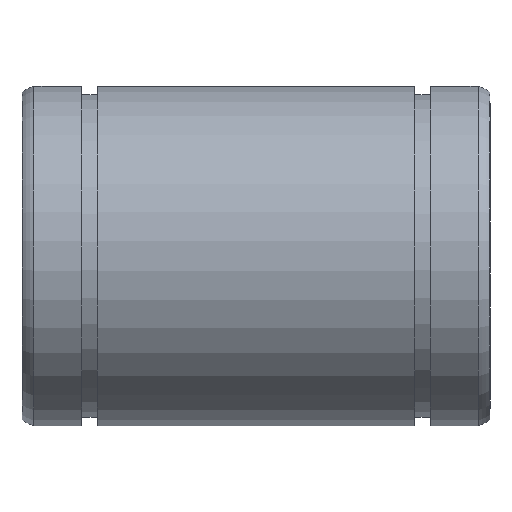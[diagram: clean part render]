
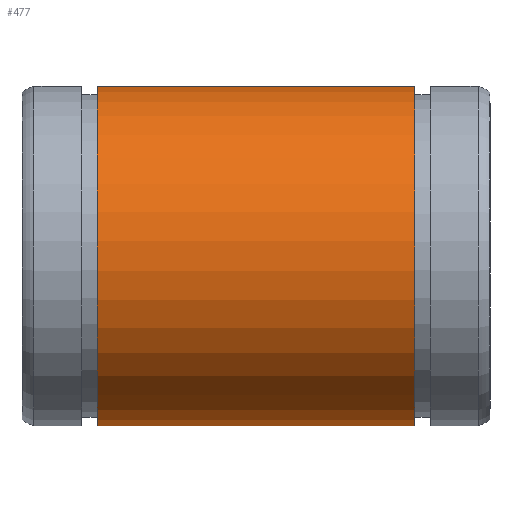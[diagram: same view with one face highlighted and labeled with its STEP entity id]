
A CAD part, top view. The second image highlights one B-rep face of the part: STEP entity #477.
In plain terms, the highlighted cylindrical face has radius 20 mm (diameter 40 mm), a partial arc.
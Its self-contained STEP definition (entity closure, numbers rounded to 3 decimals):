
#90=CARTESIAN_POINT('',(8.85,8.42,-18.141));
#91=VERTEX_POINT('',#90);
#98=CARTESIAN_POINT('',(46.15,8.42,-18.141));
#99=VERTEX_POINT('',#98);
#100=CARTESIAN_POINT('',(46.15,8.42,-18.141));
#101=DIRECTION('',(-1.0,0.0,0.0));
#102=VECTOR('',#101,37.3);
#103=LINE('',#100,#102);
#104=EDGE_CURVE('',#99,#91,#103,.T.);
#333=CARTESIAN_POINT('',(46.15,-8.42,-18.141));
#334=VERTEX_POINT('',#333);
#341=CARTESIAN_POINT('',(8.85,-8.42,-18.141));
#342=VERTEX_POINT('',#341);
#343=CARTESIAN_POINT('',(8.85,-8.42,-18.141));
#344=DIRECTION('',(1.0,0.0,0.0));
#345=VECTOR('',#344,37.3);
#346=LINE('',#343,#345);
#347=EDGE_CURVE('',#342,#334,#346,.T.);
#448=CARTESIAN_POINT('',(8.85,0.0,0.));
#449=DIRECTION('',(-1.0,0.0,0.0));
#450=DIRECTION('',(0.0,0.0,1.0));
#451=AXIS2_PLACEMENT_3D('',#448,#449,#450);
#452=CIRCLE('',#451,20.);
#453=EDGE_CURVE('',#342,#91,#452,.T.);
#460=CARTESIAN_POINT('',(27.5,0.0,0.));
#461=DIRECTION('',(-1.0,0.0,0.));
#462=DIRECTION('',(0.0,0.0,1.0));
#463=AXIS2_PLACEMENT_3D('',#460,#461,#462);
#464=CYLINDRICAL_SURFACE('',#463,20.);
#465=ORIENTED_EDGE('',*,*,#347,.T.);
#466=CARTESIAN_POINT('',(46.15,0.0,0.));
#467=DIRECTION('',(-1.0,0.0,0.0));
#468=DIRECTION('',(0.0,0.0,1.0));
#469=AXIS2_PLACEMENT_3D('',#466,#467,#468);
#470=CIRCLE('',#469,20.);
#471=EDGE_CURVE('',#334,#99,#470,.T.);
#472=ORIENTED_EDGE('',*,*,#471,.T.);
#473=ORIENTED_EDGE('',*,*,#104,.T.);
#474=ORIENTED_EDGE('',*,*,#453,.F.);
#475=EDGE_LOOP('',(#465,#472,#473,#474));
#476=FACE_OUTER_BOUND('',#475,.T.);
#477=ADVANCED_FACE('',(#476),#464,.T.);
